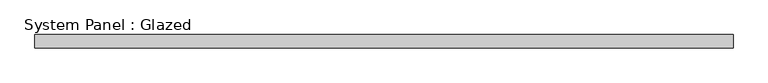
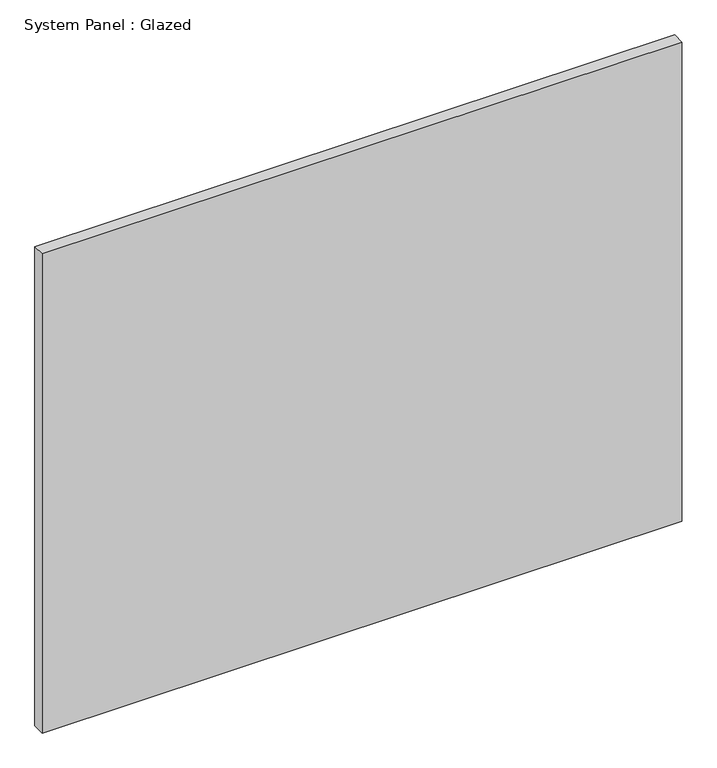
"""IFC4 building model written with IfcOpenShell, lengths in millimetres: plate geometry, System Panel : Glazed."""

from ifc_helpers import new_model, si_unit, origin, origin_with_axes, place, context, project, spatial, polyline, outline, extrude, source, transform, mapped, element, save


def system_panel_glazed_acd0aa78(model_context):
    return source(origin(), model_context, "Body", "SweptSolid", [
        extrude(outline(polyline([(656.062298, 19.05), (-656.062298, 19.05), (-656.062298, 44.45), (656.062298, 44.45), (656.062298, 19.05)])), origin_with_axes(), (0.0, 0.0, 1.0), 1038.7193103),
    ])


if __name__ == "__main__":
    model = new_model("IFC4")
    model_context = context("Model", 3, world=origin())
    ifc_project = project(units=[si_unit("LENGTHUNIT", "METRE", prefix="MILLI")], contexts=[model_context])
    site = spatial("IfcSite", under=ifc_project)
    building = spatial("IfcBuilding", under=site)
    placement = place(None, origin())
    system_panel_glazed_shape = system_panel_glazed_acd0aa78(model_context)
    element("IfcPlate", 1, ObjectType="System Panel : Glazed", at=placement, inside=building, context=model_context, shape_type="MappedRepresentation", body=[
        mapped(system_panel_glazed_shape, transform((0.0, 0.0, 0.0), x_axis=(1.0, 0.0, 0.0), y_axis=(0.0, 1.0, 0.0), z_axis=(0.0, 0.0, 1.0))),
    ])
    save(model, "model.ifc")
